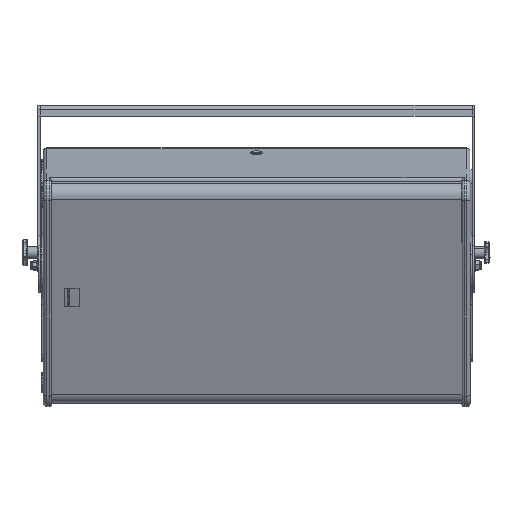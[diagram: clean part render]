
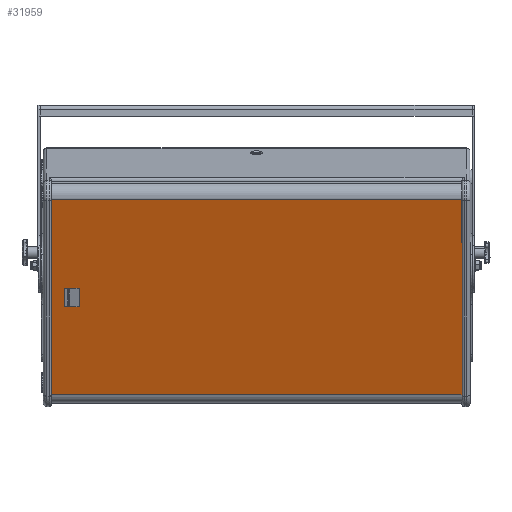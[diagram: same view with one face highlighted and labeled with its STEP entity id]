
A CAD part, top view. The second image highlights one B-rep face of the part: STEP entity #31959.
In plain terms, the highlighted planar face has unit normal (0, -0.345, 0.939) as drawn and (0, -1, 0) by its records, which use the part's own axes.
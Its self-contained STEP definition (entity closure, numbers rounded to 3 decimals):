
#445 = LINE ( 'NONE', #14360, #449 ) ;
#449 = VECTOR ( 'NONE', #14361, 1000. ) ;
#452 = LINE ( 'NONE', #14368, #454 ) ;
#454 = VECTOR ( 'NONE', #14369, 1000. ) ;
#455 = LINE ( 'NONE', #14373, #457 ) ;
#457 = VECTOR ( 'NONE', #14374, 1000. ) ;
#458 = LINE ( 'NONE', #14375, #459 ) ;
#459 = VECTOR ( 'NONE', #14376, 1000. ) ;
#782 = FACE_OUTER_BOUND ( 'NONE', #2725, .T. ) ;
#2725 = EDGE_LOOP ( 'NONE', ( #18500, #18501, #18502, #18503 ) ) ;
#3713 = AXIS2_PLACEMENT_3D ( 'NONE', #29462, #29463, #29464 ) ;
#14360 = CARTESIAN_POINT ( 'NONE',  ( 225., 6.444, 0. ) ) ;
#14361 = DIRECTION ( 'NONE',  ( 1., 0., 0. ) ) ;
#14368 = CARTESIAN_POINT ( 'NONE',  ( 420., 6.444, 385. ) ) ;
#14369 = DIRECTION ( 'NONE',  ( 0., 0., 1. ) ) ;
#14373 = CARTESIAN_POINT ( 'NONE',  ( 225., 6.444, 770. ) ) ;
#14374 = DIRECTION ( 'NONE',  ( -1., 0., 0. ) ) ;
#14375 = CARTESIAN_POINT ( 'NONE',  ( 30., 6.444, 385. ) ) ;
#14376 = DIRECTION ( 'NONE',  ( 0., 0., -1. ) ) ;
#18500 = ORIENTED_EDGE ( 'NONE', *, *, #28122, .T. ) ;
#18501 = ORIENTED_EDGE ( 'NONE', *, *, #28123, .T. ) ;
#18502 = ORIENTED_EDGE ( 'NONE', *, *, #28117, .T. ) ;
#18503 = ORIENTED_EDGE ( 'NONE', *, *, #28120, .T. ) ;
#28117 = EDGE_CURVE ( 'NONE', #28429, #28430, #445, .T. ) ;
#28120 = EDGE_CURVE ( 'NONE', #28430, #28428, #452, .T. ) ;
#28122 = EDGE_CURVE ( 'NONE', #28428, #28427, #455, .T. ) ;
#28123 = EDGE_CURVE ( 'NONE', #28427, #28429, #458, .T. ) ;
#28427 = VERTEX_POINT ( 'NONE', #28983 ) ;
#28428 = VERTEX_POINT ( 'NONE', #28984 ) ;
#28429 = VERTEX_POINT ( 'NONE', #28985 ) ;
#28430 = VERTEX_POINT ( 'NONE', #28986 ) ;
#28983 = CARTESIAN_POINT ( 'NONE',  ( 30., 6.444, 770. ) ) ;
#28984 = CARTESIAN_POINT ( 'NONE',  ( 420., 6.444, 770. ) ) ;
#28985 = CARTESIAN_POINT ( 'NONE',  ( 30., 6.444, 0. ) ) ;
#28986 = CARTESIAN_POINT ( 'NONE',  ( 420., 6.444, 0. ) ) ;
#29461 = PLANE ( 'NONE',  #3713 ) ;
#29462 = CARTESIAN_POINT ( 'NONE',  ( 30., 6.444, 0. ) ) ;
#29463 = DIRECTION ( 'NONE',  ( 0., -1., 0. ) ) ;
#29464 = DIRECTION ( 'NONE',  ( 1., 0., 0. ) ) ;
#31959 = ADVANCED_FACE ( 'NONE', ( #782 ), #29461, .T. ) ;
